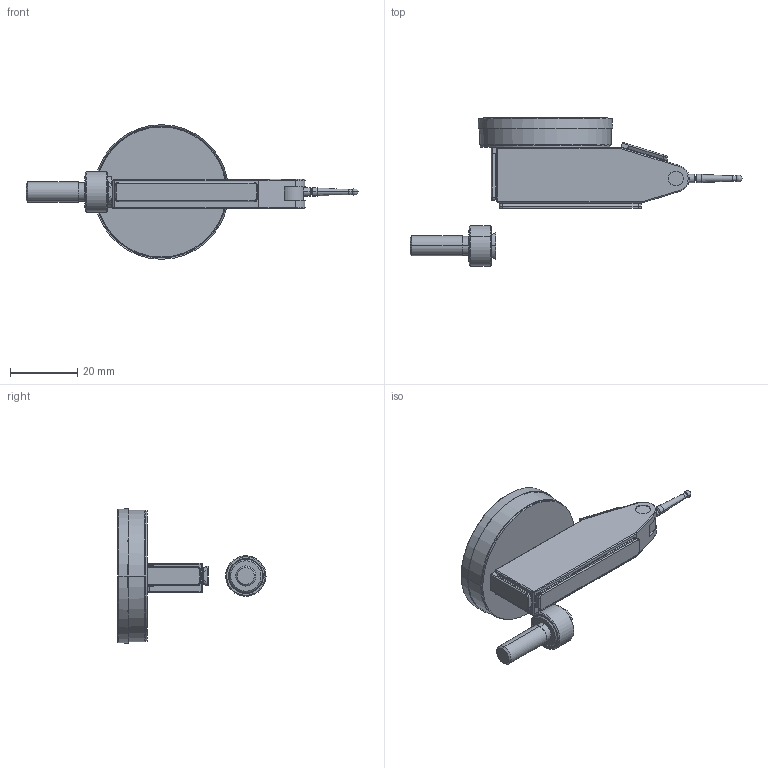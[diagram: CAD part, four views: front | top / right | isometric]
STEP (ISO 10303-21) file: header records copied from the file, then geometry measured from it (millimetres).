
FILE_DESCRIPTION(('Creo Elements/Direct Modeling STEP Export'),'2;1');
FILE_NAME('513-405-10H_TI-112HX.stp','2020-03-26T12:48:24',(''),(''),'Creo Elements/Direct Modeling STEP processor for AP214 (Solid Model)','Creo Elements/Direct Modeling 18.1I 13-Aug-2016 (C) Parametric Technology GmbH','');
FILE_SCHEMA(('AUTOMOTIVE_DESIGN { 1 0 10303 214 1 1 1 1 }'));
Length unit declared in the file: millimetre
Products named in the file (4): nut_190322; 513-405-10; stem_21CAB103; 513-405-10H
Assembly tree (3 placements, depth 2):
  513-405-10H
    stem_21CAB103
    513-405-10
    nut_190322
Bounding box: 98.56 x 43.95 x 40 mm (x, y, z)
Volume: 19658.8 mm3; surface area: 8281.1 mm2
Topology: 3 solids, 3 shells, 203 faces, 464 edges, 276 vertices
Faces by surface type: cylinder 83, plane 52, cone 34, torus 16, bspline 16, sphere 2
Entity records: 8996 total; most frequent: CARTESIAN_POINT 4668, ORIENTED_EDGE 924, DIRECTION 837, EDGE_CURVE 462, AXIS2_PLACEMENT_3D 317, VERTEX_POINT 276, EDGE_LOOP 222, FACE_OUTER_BOUND 203
